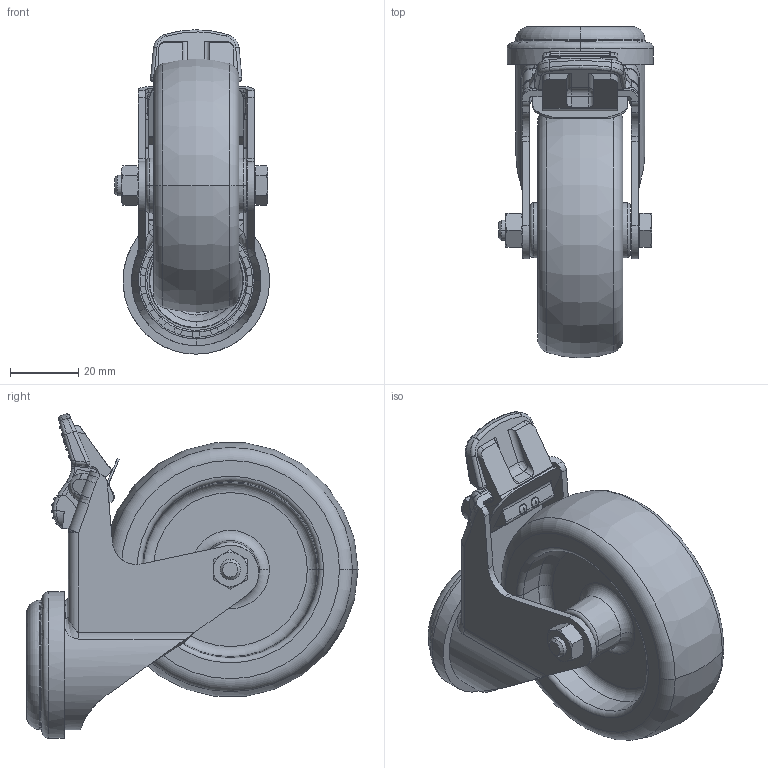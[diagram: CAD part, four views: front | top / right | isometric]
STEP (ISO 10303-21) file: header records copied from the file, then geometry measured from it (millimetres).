
FILE_DESCRIPTION (( 'STEP AP214' ), '1' );
FILE_NAME ('1.5028 Pyörä Blickle D75 H100 kääntyvä lukollinen liukulaakerilla.STEP', '2025-09-17T07:18:40', ( '' ), ( '' ), 'SwSTEP 2.0', 'SolidWorks 2025', '' );
FILE_SCHEMA (( 'AUTOMOTIVE_DESIGN' ));
Length unit declared in the file: millimetre
Products named in the file (1): 1.5028 Pyörä Blickle D75 H100 kääntyvä lukollinen liukulaakerilla
Bounding box: 45.5 x 97.5 x 95.22 mm (x, y, z)
Volume: 100355.3 mm3; surface area: 39041.8 mm2
Topology: 3 solids, 3 shells, 1362 faces, 3588 edges, 2294 vertices
Faces by surface type: plane 640, bspline 299, cylinder 235, cone 73, torus 66, sphere 49
Entity records: 83748 total; most frequent: CARTESIAN_POINT 42618, ORIENTED_EDGE 7124, DIRECTION 4757, EDGE_CURVE 3562, VERTEX_POINT 2291, VECTOR 1821, LINE 1821, AXIS2_PLACEMENT_3D 1468
